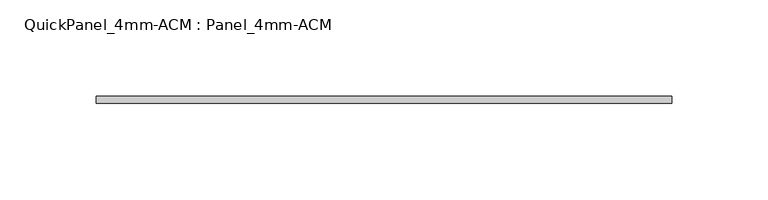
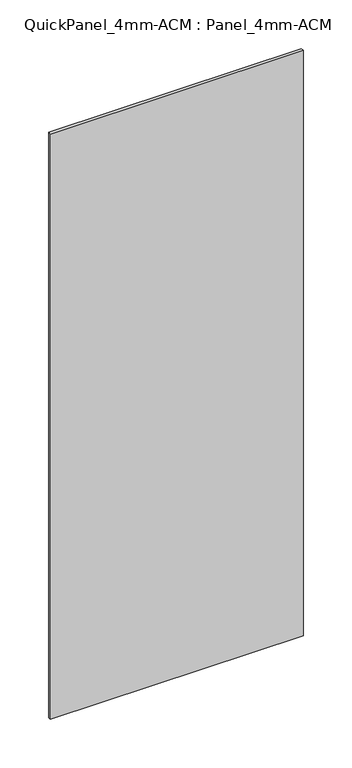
"""IFC4 building model written with IfcOpenShell, lengths in millimetres: plate geometry, QuickPanel_4mm-ACM : Panel_4mm-ACM."""

from ifc_helpers import new_model, si_unit, origin, origin_with_axes, place, context, project, spatial, polyline, outline, extrude, source, transform, mapped, element, save


def quickpanel_4mm_acm_panel_4mm_acm_660401e3(model_context):
    return source(origin(), model_context, "Body", "SweptSolid", [
        extrude(outline(polyline([(-149.9703985, -6.096), (149.9703985, -6.096), (149.9703985, -9.906), (-149.9703985, -9.906), (-149.9703985, -6.096)])), origin_with_axes(), (0.0, 0.0, 1.0), 734.3930447),
    ])


if __name__ == "__main__":
    model = new_model("IFC4")
    model_context = context("Model", 3, world=origin())
    ifc_project = project(units=[si_unit("LENGTHUNIT", "METRE", prefix="MILLI")], contexts=[model_context])
    site = spatial("IfcSite", under=ifc_project)
    building = spatial("IfcBuilding", under=site)
    placement = place(None, origin())
    quickpanel_4mm_acm_panel_4mm_acm_shape = quickpanel_4mm_acm_panel_4mm_acm_660401e3(model_context)
    element("IfcPlate", 1, ObjectType="QuickPanel_4mm-ACM : Panel_4mm-ACM", at=placement, inside=building, context=model_context, shape_type="MappedRepresentation", body=[
        mapped(quickpanel_4mm_acm_panel_4mm_acm_shape, transform((0.0, 0.0, 0.0), x_axis=(1.0, 0.0, 0.0), y_axis=(0.0, 1.0, 0.0), z_axis=(0.0, 0.0, 1.0))),
    ])
    save(model, "model.ifc")
